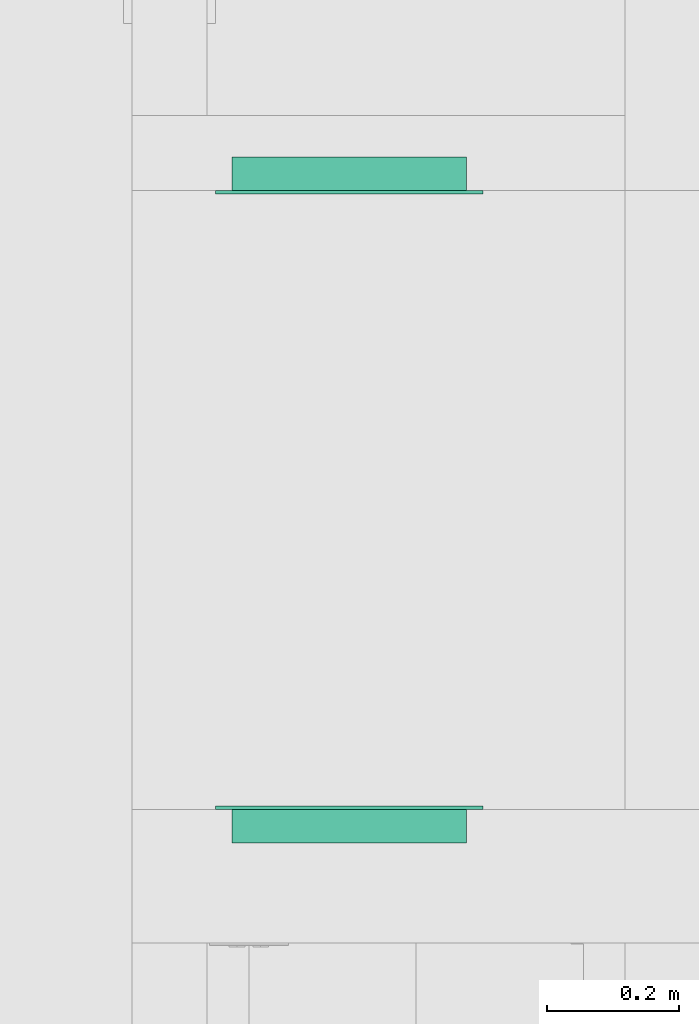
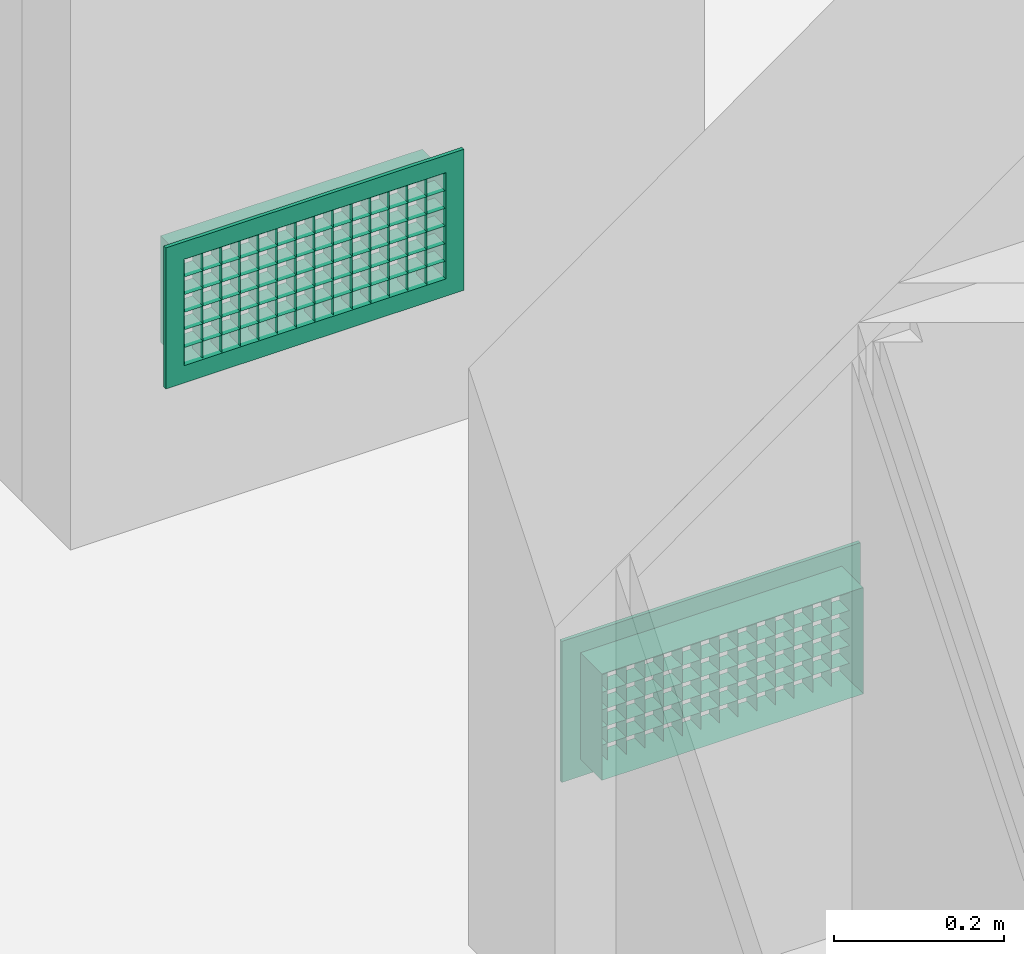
# One storey, part 41 of 103: 2 distribution flow elements.
"""IFC2X3 building model written with IfcOpenShell, lengths in inches."""

from ifc_helpers import new_model, entity, si_unit, converted_unit, derived_unit, money_unit, direction, frame, origin_with_axes, place, context, subcontext, project, spatial, open_shell, faceted_brep, surface_model, type_object, element, save


model = new_model("IFC2X3")

# Units and contexts
model_context = context("Model", 3, precision=0.00039370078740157, world=origin_with_axes(), true_north=direction((0.0, 1.0)))
plan_context = context("Plan", 3, precision=0.00039370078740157, world=origin_with_axes(), true_north=direction((0.0, 1.0)))
body_context = subcontext(model_context, "Body", "Model", "MODEL_VIEW")
ifc_project = project(units=[converted_unit("LENGTHUNIT", "INCH", entity("IfcPositiveLengthMeasure", 0.0254), si_unit("LENGTHUNIT", "METRE"), dimensions=[1, 0, 0, 0, 0, 0, 0]), converted_unit("AREAUNIT", "SQUARE_FOOT", entity("IfcPositiveLengthMeasure", 0.09290304), si_unit("AREAUNIT", "SQUARE_METRE"), dimensions=[2, 0, 0, 0, 0, 0, 0]), si_unit("PLANEANGLEUNIT", "RADIAN"), si_unit("SOLIDANGLEUNIT", "STERADIAN"), money_unit("USD"), converted_unit("TIMEUNIT", "Year", entity("IfcTimeMeasure", 31557600.0), si_unit("TIMEUNIT", "SECOND"), dimensions=[0, 0, 1, 0, 0, 0, 0]), si_unit("MASSUNIT", "GRAM", prefix="KILO"), si_unit("THERMODYNAMICTEMPERATUREUNIT", "DEGREE_CELSIUS"), si_unit("LUMINOUSINTENSITYUNIT", "LUMEN"), si_unit("ENERGYUNIT", "JOULE", prefix="MEGA"), derived_unit("SPECIFICHEATCAPACITYUNIT", [(si_unit("ENERGYUNIT", "JOULE"), 1), (si_unit("MASSUNIT", "GRAM", prefix="KILO"), -1), (si_unit("THERMODYNAMICTEMPERATUREUNIT", "KELVIN"), -1)])], contexts=[model_context, plan_context])

# Site, building, storey
site_placement = place(None, origin_with_axes())
site = spatial("IfcSite", under=ifc_project, at=site_placement, Name="Site", CompositionType="ELEMENT")
building_placement = place(site_placement, origin_with_axes())
building = spatial("IfcBuilding", under=site, at=building_placement, Name="Building", CompositionType="ELEMENT")
storey_placement = place(building_placement, frame((0.0, 0.0, 127.9999999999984), z_axis=(0.0, 0.0, 1.0), x_axis=(1.0, 0.0, 0.0)))
storey = spatial("IfcBuildingStorey", under=building, at=storey_placement, Name="Second Floor", CompositionType="ELEMENT", Elevation=128.0)

# Distribution flow elements
valve_type = type_object("IfcValveType", Name="Sidewall Grille", PredefinedType="NOTDEFINED")
distribution_flow_element_1_placement = place(storey_placement, frame((222.5002521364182, 306.4999999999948, 11.49999999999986), z_axis=(0.0, 0.0, 1.0), x_axis=(1.0, 0.0, 0.0)))
element("IfcDistributionFlowElement", 1, at=distribution_flow_element_1_placement, inside=storey, type_object=valve_type, Name="FU - 004", context=body_context, shape_type="SurfaceModel", body=[
    faceted_brep([(-7.999876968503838, -0.1968503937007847, -3.999876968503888), (-7.999876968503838, 0.0, -3.999876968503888), (7.999876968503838, 0.0, -3.999876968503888), (7.999876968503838, -0.1968503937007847, -3.999876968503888), (-7.999876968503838, -0.1968503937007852, 3.999876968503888), (-7.999876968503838, 0.0, 3.999876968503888), (7.999876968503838, 0.0, 3.999876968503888), (-7.015624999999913, 0.0, -3.015624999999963), (7.015624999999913, 0.0, -3.015624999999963), (7.015624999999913, 0.0, 3.015624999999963), (-7.015624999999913, 0.0, 3.015624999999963), (7.999876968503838, -0.1968503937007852, 3.999876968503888), (-7.015624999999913, -0.1968503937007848, -3.015624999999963), (-7.015624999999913, -0.1968503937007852, 3.015624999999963), (7.015624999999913, -0.1968503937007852, 3.015624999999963), (7.015624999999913, -0.1968503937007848, -3.015624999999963)], [[[0, 1, 2, 3]], [[4, 5, 1, 0]], [[1, 5, 6, 2], [7, 8, 9, 10]], [[3, 2, 6, 11]], [[0, 3, 11, 4], [12, 13, 14, 15]], [[11, 6, 5, 4]], [[15, 8, 7, 12]], [[14, 9, 8, 15]], [[13, 10, 9, 14]], [[12, 7, 10, 13]]]),
    surface_model("IfcShellBasedSurfaceModel", [(6.976254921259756, -0.1968503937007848, -2.999999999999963), (6.976254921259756, 0.7874015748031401, -2.999999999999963), (-6.976254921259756, 0.7874015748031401, -2.999999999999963), (-6.976254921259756, -0.1968503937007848, -2.999999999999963)], [open_shell([[[0, 1, 2, 3]]])]),
    surface_model("IfcShellBasedSurfaceModel", [(6.976254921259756, -0.1968503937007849, -1.999999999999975), (6.976254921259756, 0.7874015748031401, -1.999999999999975), (-6.976254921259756, 0.7874015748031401, -1.999999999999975), (-6.976254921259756, -0.1968503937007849, -1.999999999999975)], [open_shell([[[0, 1, 2, 3]]])]),
    surface_model("IfcShellBasedSurfaceModel", [(6.976254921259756, -0.1968503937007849, -0.9999999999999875), (6.976254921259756, 0.7874015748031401, -0.9999999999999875), (-6.976254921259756, 0.7874015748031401, -0.9999999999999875), (-6.976254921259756, -0.1968503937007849, -0.9999999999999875)], [open_shell([[[0, 1, 2, 3]]])]),
    surface_model("IfcShellBasedSurfaceModel", [(6.976254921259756, -0.196850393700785, 0.0), (6.976254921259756, 0.78740157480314, 0.0), (-6.976254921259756, 0.78740157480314, 0.0), (-6.976254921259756, -0.196850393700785, 0.0)], [open_shell([[[0, 1, 2, 3]]])]),
    surface_model("IfcShellBasedSurfaceModel", [(6.976254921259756, -0.1968503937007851, 0.999999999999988), (6.976254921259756, 0.78740157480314, 0.999999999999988), (-6.976254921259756, 0.78740157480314, 0.999999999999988), (-6.976254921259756, -0.1968503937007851, 0.999999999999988)], [open_shell([[[0, 1, 2, 3]]])]),
    surface_model("IfcShellBasedSurfaceModel", [(6.976254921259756, -0.1968503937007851, 1.999999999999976), (6.976254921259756, 0.7874015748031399, 1.999999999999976), (-6.976254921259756, 0.7874015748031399, 1.999999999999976), (-6.976254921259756, -0.1968503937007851, 1.999999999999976)], [open_shell([[[0, 1, 2, 3]]])]),
    surface_model("IfcShellBasedSurfaceModel", [(6.976254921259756, -0.1968503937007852, 2.999999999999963), (6.976254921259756, 0.7874015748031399, 2.999999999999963), (-6.976254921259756, 0.7874015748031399, 2.999999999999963), (-6.976254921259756, -0.1968503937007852, 2.999999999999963)], [open_shell([[[0, 1, 2, 3]]])]),
    surface_model("IfcShellBasedSurfaceModel", [(-6.999999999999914, -0.1968503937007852, 2.976254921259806), (-6.999999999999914, 0.7874015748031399, 2.976254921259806), (-6.999999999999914, 0.7874015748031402, -2.976254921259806), (-6.999999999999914, -0.1968503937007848, -2.976254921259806)], [open_shell([[[0, 1, 2, 3]]])]),
    surface_model("IfcShellBasedSurfaceModel", [(-5.999999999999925, -0.1968503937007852, 2.976254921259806), (-5.999999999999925, 0.7874015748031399, 2.976254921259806), (-5.999999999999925, 0.7874015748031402, -2.976254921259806), (-5.999999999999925, -0.1968503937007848, -2.976254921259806)], [open_shell([[[0, 1, 2, 3]]])]),
    surface_model("IfcShellBasedSurfaceModel", [(-4.999999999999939, -0.1968503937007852, 2.976254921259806), (-4.999999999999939, 0.7874015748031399, 2.976254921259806), (-4.999999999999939, 0.7874015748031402, -2.976254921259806), (-4.999999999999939, -0.1968503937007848, -2.976254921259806)], [open_shell([[[0, 1, 2, 3]]])]),
    surface_model("IfcShellBasedSurfaceModel", [(-3.999999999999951, -0.1968503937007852, 2.976254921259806), (-3.999999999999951, 0.7874015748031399, 2.976254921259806), (-3.999999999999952, 0.7874015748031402, -2.976254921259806), (-3.999999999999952, -0.1968503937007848, -2.976254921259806)], [open_shell([[[0, 1, 2, 3]]])]),
    surface_model("IfcShellBasedSurfaceModel", [(-2.999999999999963, -0.1968503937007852, 2.976254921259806), (-2.999999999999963, 0.7874015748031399, 2.976254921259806), (-2.999999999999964, 0.7874015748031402, -2.976254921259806), (-2.999999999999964, -0.1968503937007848, -2.976254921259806)], [open_shell([[[0, 1, 2, 3]]])]),
    surface_model("IfcShellBasedSurfaceModel", [(-1.999999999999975, -0.1968503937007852, 2.976254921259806), (-1.999999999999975, 0.7874015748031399, 2.976254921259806), (-1.999999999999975, 0.7874015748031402, -2.976254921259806), (-1.999999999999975, -0.1968503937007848, -2.976254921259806)], [open_shell([[[0, 1, 2, 3]]])]),
    surface_model("IfcShellBasedSurfaceModel", [(-0.999999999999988, -0.1968503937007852, 2.976254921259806), (-0.999999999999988, 0.7874015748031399, 2.976254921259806), (-0.9999999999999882, 0.7874015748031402, -2.976254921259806), (-0.9999999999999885, -0.1968503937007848, -2.976254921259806)], [open_shell([[[0, 1, 2, 3]]])]),
    surface_model("IfcShellBasedSurfaceModel", [(0.0, -0.1968503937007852, 2.976254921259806), (0.0, 0.7874015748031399, 2.976254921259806), (0.0, 0.7874015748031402, -2.976254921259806), (0.0, -0.1968503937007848, -2.976254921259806)], [open_shell([[[0, 1, 2, 3]]])]),
    surface_model("IfcShellBasedSurfaceModel", [(0.999999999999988, -0.1968503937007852, 2.976254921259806), (0.999999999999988, 0.7874015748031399, 2.976254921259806), (0.9999999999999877, 0.7874015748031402, -2.976254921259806), (0.9999999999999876, -0.1968503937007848, -2.976254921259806)], [open_shell([[[0, 1, 2, 3]]])]),
    surface_model("IfcShellBasedSurfaceModel", [(1.999999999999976, -0.1968503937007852, 2.976254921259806), (1.999999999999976, 0.7874015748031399, 2.976254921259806), (1.999999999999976, 0.7874015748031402, -2.976254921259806), (1.999999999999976, -0.1968503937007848, -2.976254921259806)], [open_shell([[[0, 1, 2, 3]]])]),
    surface_model("IfcShellBasedSurfaceModel", [(2.999999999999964, -0.1968503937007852, 2.976254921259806), (2.999999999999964, 0.7874015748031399, 2.976254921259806), (2.999999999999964, 0.7874015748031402, -2.976254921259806), (2.999999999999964, -0.1968503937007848, -2.976254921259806)], [open_shell([[[0, 1, 2, 3]]])]),
    surface_model("IfcShellBasedSurfaceModel", [(3.999999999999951, -0.1968503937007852, 2.976254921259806), (3.999999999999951, 0.7874015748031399, 2.976254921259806), (3.99999999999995, 0.7874015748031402, -2.976254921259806), (3.99999999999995, -0.1968503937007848, -2.976254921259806)], [open_shell([[[0, 1, 2, 3]]])]),
    surface_model("IfcShellBasedSurfaceModel", [(4.999999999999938, -0.1968503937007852, 2.976254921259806), (4.999999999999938, 0.7874015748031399, 2.976254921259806), (4.999999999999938, 0.7874015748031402, -2.976254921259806), (4.999999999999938, -0.1968503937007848, -2.976254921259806)], [open_shell([[[0, 1, 2, 3]]])]),
    surface_model("IfcShellBasedSurfaceModel", [(5.999999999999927, -0.1968503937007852, 2.976254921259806), (5.999999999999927, 0.7874015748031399, 2.976254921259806), (5.999999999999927, 0.7874015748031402, -2.976254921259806), (5.999999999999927, -0.1968503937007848, -2.976254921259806)], [open_shell([[[0, 1, 2, 3]]])]),
    surface_model("IfcShellBasedSurfaceModel", [(6.999999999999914, -0.1968503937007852, 2.976254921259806), (6.999999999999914, 0.7874015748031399, 2.976254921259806), (6.999999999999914, 0.7874015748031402, -2.976254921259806), (6.999999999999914, -0.1968503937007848, -2.976254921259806)], [open_shell([[[0, 1, 2, 3]]])]),
    surface_model("IfcShellBasedSurfaceModel", [(7.015624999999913, 0.0, -3.015624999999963), (7.015624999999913, 1.999999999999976, -3.015624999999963), (7.015624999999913, 1.999999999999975, 3.015624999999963), (7.015624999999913, 0.0, 3.015624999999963), (-7.015624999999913, 0.0, -3.015624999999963), (-7.015624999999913, 1.999999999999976, -3.015624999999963), (-7.015624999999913, 1.999999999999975, 3.015624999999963), (-7.015624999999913, 0.0, 3.015624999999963)], [open_shell([[[0, 1, 2, 3]], [[4, 5, 1, 0]], [[3, 2, 6, 7]], [[7, 6, 5, 4]]])]),
])
distribution_flow_element_2_placement = place(storey_placement, frame((222.5002521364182, 269.5028416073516, 11.49999999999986), z_axis=(0.0, 0.0, 1.0), x_axis=(-1.0, 0.0, 0.0)))
element("IfcDistributionFlowElement", 2, at=distribution_flow_element_2_placement, inside=storey, type_object=valve_type, Name="FU - 004", context=body_context, shape_type="SurfaceModel", body=[
    faceted_brep([(7.999876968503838, -0.1968503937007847, -3.999876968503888), (-7.999876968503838, -0.1968503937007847, -3.999876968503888), (-7.999876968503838, 0.0, -3.999876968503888), (7.999876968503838, 0.0, -3.999876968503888), (7.999876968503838, -0.1968503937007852, 3.999876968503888), (-7.999876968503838, -0.1968503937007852, 3.999876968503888), (7.015624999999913, -0.1968503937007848, -3.015624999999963), (-7.015624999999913, -0.1968503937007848, -3.015624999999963), (-7.015624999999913, -0.1968503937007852, 3.015624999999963), (7.015624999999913, -0.1968503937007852, 3.015624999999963), (-7.999876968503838, 0.0, 3.999876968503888), (7.999876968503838, 0.0, 3.999876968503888), (7.015624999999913, 0.0, -3.015624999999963), (7.015624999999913, 0.0, 3.015624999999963), (-7.015624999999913, 0.0, 3.015624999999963), (-7.015624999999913, 0.0, -3.015624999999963)], [[[0, 1, 2, 3]], [[0, 4, 5, 1], [6, 7, 8, 9]], [[1, 5, 10, 2]], [[3, 2, 10, 11], [12, 13, 14, 15]], [[4, 0, 3, 11]], [[5, 4, 11, 10]], [[7, 6, 12, 15]], [[8, 7, 15, 14]], [[9, 8, 14, 13]], [[6, 9, 13, 12]]]),
    surface_model("IfcShellBasedSurfaceModel", [(-6.976254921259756, -0.1968503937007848, -2.999999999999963), (6.976254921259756, -0.1968503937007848, -2.999999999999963), (6.976254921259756, 0.7874015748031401, -2.999999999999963), (-6.976254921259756, 0.7874015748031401, -2.999999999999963)], [open_shell([[[0, 1, 2, 3]]])]),
    surface_model("IfcShellBasedSurfaceModel", [(-6.976254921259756, -0.1968503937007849, -1.999999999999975), (6.976254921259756, -0.1968503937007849, -1.999999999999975), (6.976254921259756, 0.7874015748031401, -1.999999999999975), (-6.976254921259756, 0.7874015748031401, -1.999999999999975)], [open_shell([[[0, 1, 2, 3]]])]),
    surface_model("IfcShellBasedSurfaceModel", [(-6.976254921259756, -0.1968503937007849, -0.9999999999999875), (6.976254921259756, -0.1968503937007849, -0.9999999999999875), (6.976254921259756, 0.7874015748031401, -0.9999999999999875), (-6.976254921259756, 0.7874015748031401, -0.9999999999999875)], [open_shell([[[0, 1, 2, 3]]])]),
    surface_model("IfcShellBasedSurfaceModel", [(-6.976254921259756, -0.196850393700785, 0.0), (6.976254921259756, -0.196850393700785, 0.0), (6.976254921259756, 0.78740157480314, 0.0), (-6.976254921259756, 0.78740157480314, 0.0)], [open_shell([[[0, 1, 2, 3]]])]),
    surface_model("IfcShellBasedSurfaceModel", [(-6.976254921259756, -0.1968503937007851, 0.999999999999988), (6.976254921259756, -0.1968503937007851, 0.999999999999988), (6.976254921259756, 0.78740157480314, 0.999999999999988), (-6.976254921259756, 0.78740157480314, 0.999999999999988)], [open_shell([[[0, 1, 2, 3]]])]),
    surface_model("IfcShellBasedSurfaceModel", [(-6.976254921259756, -0.1968503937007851, 1.999999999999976), (6.976254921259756, -0.1968503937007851, 1.999999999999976), (6.976254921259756, 0.7874015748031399, 1.999999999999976), (-6.976254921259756, 0.7874015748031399, 1.999999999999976)], [open_shell([[[0, 1, 2, 3]]])]),
    surface_model("IfcShellBasedSurfaceModel", [(-6.976254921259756, -0.1968503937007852, 2.999999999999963), (6.976254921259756, -0.1968503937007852, 2.999999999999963), (6.976254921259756, 0.7874015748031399, 2.999999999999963), (-6.976254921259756, 0.7874015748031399, 2.999999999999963)], [open_shell([[[0, 1, 2, 3]]])]),
    surface_model("IfcShellBasedSurfaceModel", [(6.999999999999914, -0.1968503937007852, 2.976254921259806), (6.999999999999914, -0.1968503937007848, -2.976254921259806), (6.999999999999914, 0.7874015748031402, -2.976254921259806), (6.999999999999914, 0.7874015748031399, 2.976254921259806)], [open_shell([[[0, 1, 2, 3]]])]),
    surface_model("IfcShellBasedSurfaceModel", [(5.999999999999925, -0.1968503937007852, 2.976254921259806), (5.999999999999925, -0.1968503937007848, -2.976254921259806), (5.999999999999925, 0.7874015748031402, -2.976254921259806), (5.999999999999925, 0.7874015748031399, 2.976254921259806)], [open_shell([[[0, 1, 2, 3]]])]),
    surface_model("IfcShellBasedSurfaceModel", [(4.999999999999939, -0.1968503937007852, 2.976254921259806), (4.999999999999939, -0.1968503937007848, -2.976254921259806), (4.999999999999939, 0.7874015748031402, -2.976254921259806), (4.999999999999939, 0.7874015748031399, 2.976254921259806)], [open_shell([[[0, 1, 2, 3]]])]),
    surface_model("IfcShellBasedSurfaceModel", [(3.999999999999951, -0.1968503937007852, 2.976254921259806), (3.999999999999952, -0.1968503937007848, -2.976254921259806), (3.999999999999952, 0.7874015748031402, -2.976254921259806), (3.999999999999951, 0.7874015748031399, 2.976254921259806)], [open_shell([[[0, 1, 2, 3]]])]),
    surface_model("IfcShellBasedSurfaceModel", [(2.999999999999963, -0.1968503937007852, 2.976254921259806), (2.999999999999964, -0.1968503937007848, -2.976254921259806), (2.999999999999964, 0.7874015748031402, -2.976254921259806), (2.999999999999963, 0.7874015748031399, 2.976254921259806)], [open_shell([[[0, 1, 2, 3]]])]),
    surface_model("IfcShellBasedSurfaceModel", [(1.999999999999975, -0.1968503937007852, 2.976254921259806), (1.999999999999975, -0.1968503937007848, -2.976254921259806), (1.999999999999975, 0.7874015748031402, -2.976254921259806), (1.999999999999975, 0.7874015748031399, 2.976254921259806)], [open_shell([[[0, 1, 2, 3]]])]),
    surface_model("IfcShellBasedSurfaceModel", [(0.999999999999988, -0.1968503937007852, 2.976254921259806), (0.9999999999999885, -0.1968503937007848, -2.976254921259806), (0.9999999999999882, 0.7874015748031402, -2.976254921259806), (0.999999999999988, 0.7874015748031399, 2.976254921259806)], [open_shell([[[0, 1, 2, 3]]])]),
    surface_model("IfcShellBasedSurfaceModel", [(0.0, -0.1968503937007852, 2.976254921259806), (0.0, -0.1968503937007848, -2.976254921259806), (0.0, 0.7874015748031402, -2.976254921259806), (0.0, 0.7874015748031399, 2.976254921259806)], [open_shell([[[0, 1, 2, 3]]])]),
    surface_model("IfcShellBasedSurfaceModel", [(-0.999999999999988, -0.1968503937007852, 2.976254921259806), (-0.9999999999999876, -0.1968503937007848, -2.976254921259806), (-0.9999999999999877, 0.7874015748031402, -2.976254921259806), (-0.999999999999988, 0.7874015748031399, 2.976254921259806)], [open_shell([[[0, 1, 2, 3]]])]),
    surface_model("IfcShellBasedSurfaceModel", [(-1.999999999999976, -0.1968503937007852, 2.976254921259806), (-1.999999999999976, -0.1968503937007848, -2.976254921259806), (-1.999999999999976, 0.7874015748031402, -2.976254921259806), (-1.999999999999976, 0.7874015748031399, 2.976254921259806)], [open_shell([[[0, 1, 2, 3]]])]),
    surface_model("IfcShellBasedSurfaceModel", [(-2.999999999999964, -0.1968503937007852, 2.976254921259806), (-2.999999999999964, -0.1968503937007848, -2.976254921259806), (-2.999999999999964, 0.7874015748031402, -2.976254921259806), (-2.999999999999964, 0.7874015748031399, 2.976254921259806)], [open_shell([[[0, 1, 2, 3]]])]),
    surface_model("IfcShellBasedSurfaceModel", [(-3.999999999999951, -0.1968503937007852, 2.976254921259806), (-3.99999999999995, -0.1968503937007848, -2.976254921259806), (-3.99999999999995, 0.7874015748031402, -2.976254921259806), (-3.999999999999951, 0.7874015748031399, 2.976254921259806)], [open_shell([[[0, 1, 2, 3]]])]),
    surface_model("IfcShellBasedSurfaceModel", [(-4.999999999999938, -0.1968503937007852, 2.976254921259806), (-4.999999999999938, -0.1968503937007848, -2.976254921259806), (-4.999999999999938, 0.7874015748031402, -2.976254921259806), (-4.999999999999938, 0.7874015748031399, 2.976254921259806)], [open_shell([[[0, 1, 2, 3]]])]),
    surface_model("IfcShellBasedSurfaceModel", [(-5.999999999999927, -0.1968503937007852, 2.976254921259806), (-5.999999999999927, -0.1968503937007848, -2.976254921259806), (-5.999999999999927, 0.7874015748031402, -2.976254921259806), (-5.999999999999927, 0.7874015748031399, 2.976254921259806)], [open_shell([[[0, 1, 2, 3]]])]),
    surface_model("IfcShellBasedSurfaceModel", [(-6.999999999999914, -0.1968503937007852, 2.976254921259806), (-6.999999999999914, -0.1968503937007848, -2.976254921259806), (-6.999999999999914, 0.7874015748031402, -2.976254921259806), (-6.999999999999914, 0.7874015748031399, 2.976254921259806)], [open_shell([[[0, 1, 2, 3]]])]),
    surface_model("IfcShellBasedSurfaceModel", [(-7.015624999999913, 0.0, -3.015624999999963), (-7.015624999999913, 0.0, 3.015624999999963), (-7.015624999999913, 1.999999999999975, 3.015624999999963), (-7.015624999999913, 1.999999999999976, -3.015624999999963), (7.015624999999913, 0.0, 3.015624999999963), (7.015624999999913, 1.999999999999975, 3.015624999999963), (7.015624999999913, 0.0, -3.015624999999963), (7.015624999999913, 1.999999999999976, -3.015624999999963)], [open_shell([[[0, 1, 2, 3]], [[1, 4, 5, 2]], [[6, 0, 3, 7]], [[4, 6, 7, 5]]])]),
])

save(model, "model.ifc")
